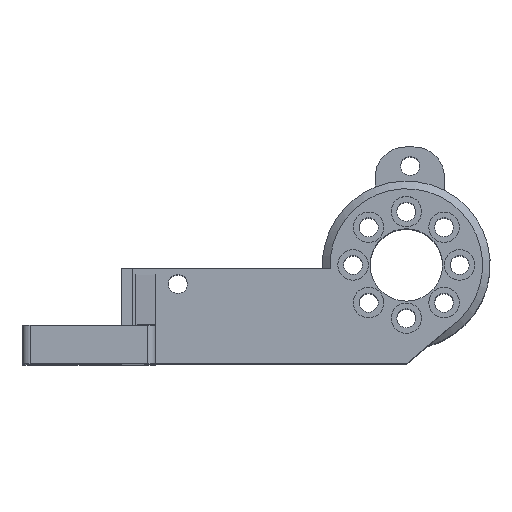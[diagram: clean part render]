
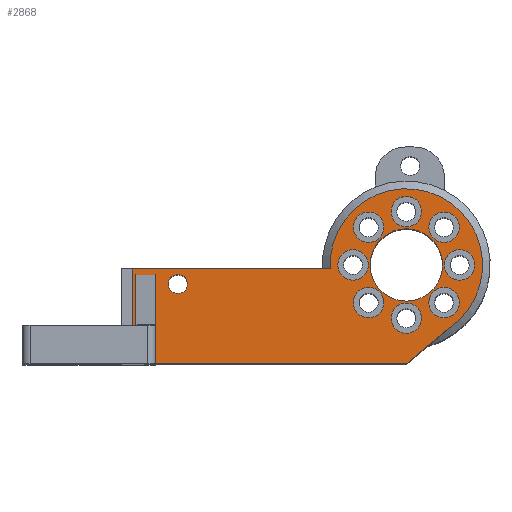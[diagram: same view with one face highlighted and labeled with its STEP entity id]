
A CAD part, top view. The second image highlights one B-rep face of the part: STEP entity #2868.
In plain terms, the highlighted planar face has unit normal (0, 0, 1).
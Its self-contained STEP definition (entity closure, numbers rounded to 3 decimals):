
#57=FACE_BOUND('',#523,.T.);
#58=FACE_BOUND('',#524,.T.);
#59=FACE_BOUND('',#525,.T.);
#60=FACE_BOUND('',#526,.T.);
#61=FACE_BOUND('',#527,.T.);
#62=FACE_BOUND('',#528,.T.);
#63=FACE_BOUND('',#529,.T.);
#64=FACE_BOUND('',#530,.T.);
#65=FACE_BOUND('',#531,.T.);
#66=FACE_BOUND('',#532,.T.);
#144=CIRCLE('',#3042,1.25);
#165=CIRCLE('',#3094,10.011);
#166=CIRCLE('',#3095,2.);
#167=CIRCLE('',#3096,4.75);
#168=CIRCLE('',#3097,2.);
#169=CIRCLE('',#3098,2.);
#170=CIRCLE('',#3099,2.);
#171=CIRCLE('',#3100,2.);
#172=CIRCLE('',#3101,2.);
#173=CIRCLE('',#3102,2.);
#174=CIRCLE('',#3103,2.);
#332=FACE_OUTER_BOUND('',#522,.T.);
#522=EDGE_LOOP('',(#2201,#2202,#2203,#2204,#2205,#2206,#2207,#2208,#2209,
#2210,#2211,#2212));
#523=EDGE_LOOP('',(#2213));
#524=EDGE_LOOP('',(#2214));
#525=EDGE_LOOP('',(#2215));
#526=EDGE_LOOP('',(#2216));
#527=EDGE_LOOP('',(#2217));
#528=EDGE_LOOP('',(#2218));
#529=EDGE_LOOP('',(#2219));
#530=EDGE_LOOP('',(#2220));
#531=EDGE_LOOP('',(#2221));
#532=EDGE_LOOP('',(#2222));
#722=LINE('',#4290,#1003);
#802=LINE('',#4488,#1083);
#808=LINE('',#4499,#1089);
#809=LINE('',#4502,#1090);
#810=LINE('',#4504,#1091);
#811=LINE('',#4506,#1092);
#812=LINE('',#4510,#1093);
#813=LINE('',#4512,#1094);
#814=LINE('',#4513,#1095);
#815=LINE('',#4515,#1096);
#816=LINE('',#4516,#1097);
#1003=VECTOR('',#3447,10.);
#1083=VECTOR('',#3615,10.);
#1089=VECTOR('',#3623,10.);
#1090=VECTOR('',#3626,10.);
#1091=VECTOR('',#3627,10.);
#1092=VECTOR('',#3628,10.);
#1093=VECTOR('',#3631,10.);
#1094=VECTOR('',#3632,10.);
#1095=VECTOR('',#3633,10.);
#1096=VECTOR('',#3634,10.);
#1097=VECTOR('',#3635,10.);
#1301=VERTEX_POINT('',#4268);
#1308=VERTEX_POINT('',#4287);
#1309=VERTEX_POINT('',#4289);
#1382=VERTEX_POINT('',#4485);
#1383=VERTEX_POINT('',#4487);
#1387=VERTEX_POINT('',#4497);
#1388=VERTEX_POINT('',#4501);
#1389=VERTEX_POINT('',#4503);
#1390=VERTEX_POINT('',#4505);
#1391=VERTEX_POINT('',#4507);
#1392=VERTEX_POINT('',#4509);
#1393=VERTEX_POINT('',#4511);
#1394=VERTEX_POINT('',#4514);
#1395=VERTEX_POINT('',#4517);
#1396=VERTEX_POINT('',#4519);
#1397=VERTEX_POINT('',#4521);
#1398=VERTEX_POINT('',#4523);
#1399=VERTEX_POINT('',#4525);
#1400=VERTEX_POINT('',#4527);
#1401=VERTEX_POINT('',#4529);
#1402=VERTEX_POINT('',#4531);
#1403=VERTEX_POINT('',#4533);
#1587=EDGE_CURVE('',#1301,#1301,#144,.T.);
#1597=EDGE_CURVE('',#1308,#1309,#722,.T.);
#1695=EDGE_CURVE('',#1382,#1383,#802,.T.);
#1701=EDGE_CURVE('',#1387,#1382,#808,.T.);
#1702=EDGE_CURVE('',#1388,#1308,#809,.T.);
#1703=EDGE_CURVE('',#1389,#1388,#810,.T.);
#1704=EDGE_CURVE('',#1390,#1389,#811,.F.);
#1705=EDGE_CURVE('',#1390,#1391,#165,.T.);
#1706=EDGE_CURVE('',#1392,#1391,#812,.T.);
#1707=EDGE_CURVE('',#1393,#1392,#813,.T.);
#1708=EDGE_CURVE('',#1383,#1393,#814,.T.);
#1709=EDGE_CURVE('',#1394,#1387,#815,.T.);
#1710=EDGE_CURVE('',#1309,#1394,#816,.T.);
#1711=EDGE_CURVE('',#1395,#1395,#166,.T.);
#1712=EDGE_CURVE('',#1396,#1396,#167,.T.);
#1713=EDGE_CURVE('',#1397,#1397,#168,.T.);
#1714=EDGE_CURVE('',#1398,#1398,#169,.T.);
#1715=EDGE_CURVE('',#1399,#1399,#170,.T.);
#1716=EDGE_CURVE('',#1400,#1400,#171,.T.);
#1717=EDGE_CURVE('',#1401,#1401,#172,.T.);
#1718=EDGE_CURVE('',#1402,#1402,#173,.T.);
#1719=EDGE_CURVE('',#1403,#1403,#174,.T.);
#2201=ORIENTED_EDGE('',*,*,#1597,.F.);
#2202=ORIENTED_EDGE('',*,*,#1702,.F.);
#2203=ORIENTED_EDGE('',*,*,#1703,.F.);
#2204=ORIENTED_EDGE('',*,*,#1704,.F.);
#2205=ORIENTED_EDGE('',*,*,#1705,.T.);
#2206=ORIENTED_EDGE('',*,*,#1706,.F.);
#2207=ORIENTED_EDGE('',*,*,#1707,.F.);
#2208=ORIENTED_EDGE('',*,*,#1708,.F.);
#2209=ORIENTED_EDGE('',*,*,#1695,.F.);
#2210=ORIENTED_EDGE('',*,*,#1701,.F.);
#2211=ORIENTED_EDGE('',*,*,#1709,.F.);
#2212=ORIENTED_EDGE('',*,*,#1710,.F.);
#2213=ORIENTED_EDGE('',*,*,#1587,.T.);
#2214=ORIENTED_EDGE('',*,*,#1711,.F.);
#2215=ORIENTED_EDGE('',*,*,#1712,.F.);
#2216=ORIENTED_EDGE('',*,*,#1713,.F.);
#2217=ORIENTED_EDGE('',*,*,#1714,.F.);
#2218=ORIENTED_EDGE('',*,*,#1715,.F.);
#2219=ORIENTED_EDGE('',*,*,#1716,.F.);
#2220=ORIENTED_EDGE('',*,*,#1717,.F.);
#2221=ORIENTED_EDGE('',*,*,#1718,.F.);
#2222=ORIENTED_EDGE('',*,*,#1719,.F.);
#2753=PLANE('',#3093);
#2868=ADVANCED_FACE('',(#332,#57,#58,#59,#60,#61,#62,#63,#64,#65,#66),#2753,
 .F.);
#3042=AXIS2_PLACEMENT_3D('',#4269,#3428,#3429);
#3093=AXIS2_PLACEMENT_3D('',#4500,#3624,#3625);
#3094=AXIS2_PLACEMENT_3D('',#4508,#3629,#3630);
#3095=AXIS2_PLACEMENT_3D('',#4518,#3636,#3637);
#3096=AXIS2_PLACEMENT_3D('',#4520,#3638,#3639);
#3097=AXIS2_PLACEMENT_3D('',#4522,#3640,#3641);
#3098=AXIS2_PLACEMENT_3D('',#4524,#3642,#3643);
#3099=AXIS2_PLACEMENT_3D('',#4526,#3644,#3645);
#3100=AXIS2_PLACEMENT_3D('',#4528,#3646,#3647);
#3101=AXIS2_PLACEMENT_3D('',#4530,#3648,#3649);
#3102=AXIS2_PLACEMENT_3D('',#4532,#3650,#3651);
#3103=AXIS2_PLACEMENT_3D('',#4534,#3652,#3653);
#3428=DIRECTION('center_axis',(0.,0.,-1.));
#3429=DIRECTION('ref_axis',(0.,1.,0.));
#3447=DIRECTION('',(-1.,0.,0.));
#3615=DIRECTION('',(0.,-1.,0.));
#3623=DIRECTION('',(-1.,0.,0.));
#3624=DIRECTION('center_axis',(0.,0.,-1.));
#3625=DIRECTION('ref_axis',(-1.,0.,0.));
#3626=DIRECTION('',(0.,1.,0.));
#3627=DIRECTION('',(-1.,0.,0.));
#3628=DIRECTION('',(0.766,0.643,0.));
#3629=DIRECTION('center_axis',(0.,0.,1.));
#3630=DIRECTION('ref_axis',(0.999,0.045,0.));
#3631=DIRECTION('',(1.,0.,0.));
#3632=DIRECTION('',(0.,1.,0.));
#3633=DIRECTION('',(-1.,0.,0.));
#3634=DIRECTION('',(0.,-1.,0.));
#3635=DIRECTION('',(-1.,0.,0.));
#3636=DIRECTION('center_axis',(0.,0.,1.));
#3637=DIRECTION('ref_axis',(-1.,0.,0.));
#3638=DIRECTION('center_axis',(0.,0.,1.));
#3639=DIRECTION('ref_axis',(-1.,0.,0.));
#3640=DIRECTION('center_axis',(0.,0.,1.));
#3641=DIRECTION('ref_axis',(-1.,0.,0.));
#3642=DIRECTION('center_axis',(0.,0.,1.));
#3643=DIRECTION('ref_axis',(-1.,0.,0.));
#3644=DIRECTION('center_axis',(0.,0.,1.));
#3645=DIRECTION('ref_axis',(-1.,0.,0.));
#3646=DIRECTION('center_axis',(0.,0.,1.));
#3647=DIRECTION('ref_axis',(-1.,0.,0.));
#3648=DIRECTION('center_axis',(0.,0.,1.));
#3649=DIRECTION('ref_axis',(-1.,0.,0.));
#3650=DIRECTION('center_axis',(0.,0.,1.));
#3651=DIRECTION('ref_axis',(-1.,0.,0.));
#3652=DIRECTION('center_axis',(0.,0.,1.));
#3653=DIRECTION('ref_axis',(-1.,0.,0.));
#4268=CARTESIAN_POINT('',(-20.,-3.25,27.95));
#4269=CARTESIAN_POINT('Origin',(-20.,-2.,27.95));
#4287=CARTESIAN_POINT('',(-22.96,-7.5,27.95));
#4289=CARTESIAN_POINT('',(-25.484,-7.5,27.95));
#4290=CARTESIAN_POINT('',(-17.459,-7.5,27.95));
#4485=CARTESIAN_POINT('',(-25.684,-8.,27.95));
#4487=CARTESIAN_POINT('',(-25.684,-12.5,27.95));
#4488=CARTESIAN_POINT('',(-25.684,-8.,27.95));
#4497=CARTESIAN_POINT('',(-25.484,-8.,27.95));
#4499=CARTESIAN_POINT('',(-25.484,-8.,27.95));
#4500=CARTESIAN_POINT('Origin',(-2.469,-0.494,27.95));
#4501=CARTESIAN_POINT('',(-22.96,-12.5,27.95));
#4502=CARTESIAN_POINT('',(-22.96,-4.622,27.95));
#4503=CARTESIAN_POINT('',(10.006,-12.5,27.95));
#4504=CARTESIAN_POINT('',(10.006,-12.5,27.95));
#4505=CARTESIAN_POINT('',(15.649,-7.766,27.95));
#4506=CARTESIAN_POINT('',(10.063,-12.452,27.95));
#4507=CARTESIAN_POINT('',(0.001,0.,27.95));
#4508=CARTESIAN_POINT('Origin',(10.,0.5,27.95));
#4509=CARTESIAN_POINT('',(-25.95,0.,27.95));
#4510=CARTESIAN_POINT('',(-25.95,0.,27.95));
#4511=CARTESIAN_POINT('',(-25.95,-12.5,27.95));
#4512=CARTESIAN_POINT('',(-25.95,-12.5,27.95));
#4513=CARTESIAN_POINT('',(-25.684,-12.5,27.95));
#4514=CARTESIAN_POINT('',(-25.484,-7.5,27.95));
#4515=CARTESIAN_POINT('',(-25.484,-7.5,27.95));
#4516=CARTESIAN_POINT('',(-22.96,-7.5,27.95));
#4517=CARTESIAN_POINT('',(16.95,5.45,27.95));
#4518=CARTESIAN_POINT('Origin',(14.95,5.45,27.95));
#4519=CARTESIAN_POINT('',(10.,-4.25,27.95));
#4520=CARTESIAN_POINT('Origin',(10.,0.5,27.95));
#4521=CARTESIAN_POINT('',(7.05,5.45,27.95));
#4522=CARTESIAN_POINT('Origin',(5.05,5.45,27.95));
#4523=CARTESIAN_POINT('',(7.05,-4.45,27.95));
#4524=CARTESIAN_POINT('Origin',(5.05,-4.45,27.95));
#4525=CARTESIAN_POINT('',(5.,0.5,27.95));
#4526=CARTESIAN_POINT('Origin',(3.,0.5,27.95));
#4527=CARTESIAN_POINT('',(16.95,-4.45,27.95));
#4528=CARTESIAN_POINT('Origin',(14.95,-4.45,27.95));
#4529=CARTESIAN_POINT('',(19.,0.5,27.95));
#4530=CARTESIAN_POINT('Origin',(17.,0.5,27.95));
#4531=CARTESIAN_POINT('',(12.,-6.5,27.95));
#4532=CARTESIAN_POINT('Origin',(10.,-6.5,27.95));
#4533=CARTESIAN_POINT('',(12.,7.5,27.95));
#4534=CARTESIAN_POINT('Origin',(10.,7.5,27.95));
